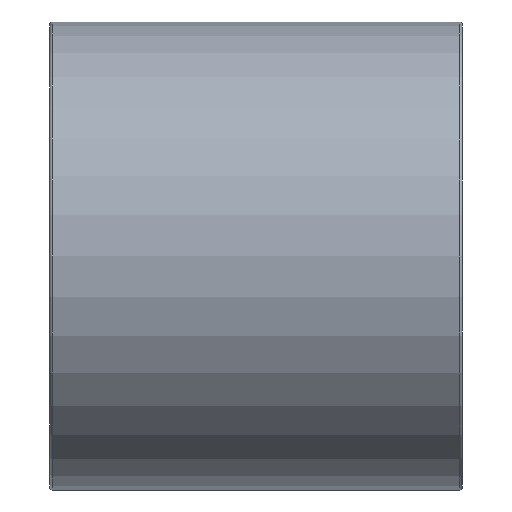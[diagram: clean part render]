
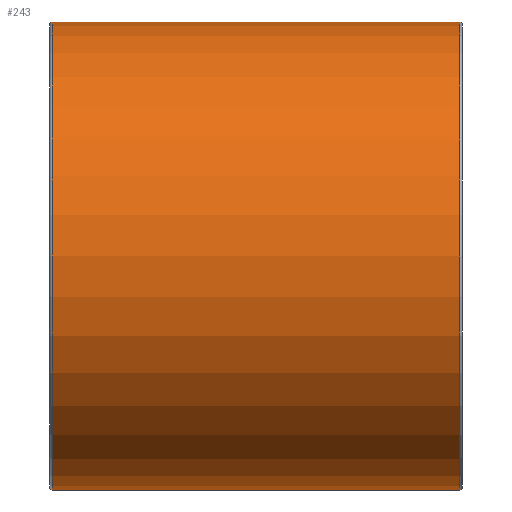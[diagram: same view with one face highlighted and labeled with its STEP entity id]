
A CAD part, front view. The second image highlights one B-rep face of the part: STEP entity #243.
In plain terms, the highlighted cylindrical face has radius 8.5 mm (diameter 17 mm), a full revolution.
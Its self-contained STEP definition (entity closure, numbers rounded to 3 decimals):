
#100=CYLINDRICAL_SURFACE('',#264,8.5);
#106=FACE_BOUND('',#138,.T.);
#120=FACE_OUTER_BOUND('',#137,.T.);
#137=EDGE_LOOP('',(#212));
#138=EDGE_LOOP('',(#213));
#165=CIRCLE('',#262,8.5);
#167=CIRCLE('',#265,8.5);
#180=VERTEX_POINT('',#418);
#182=VERTEX_POINT('',#423);
#195=EDGE_CURVE('',#180,#180,#165,.T.);
#197=EDGE_CURVE('',#182,#182,#167,.T.);
#212=ORIENTED_EDGE('',*,*,#197,.F.);
#213=ORIENTED_EDGE('',*,*,#195,.F.);
#243=ADVANCED_FACE('',(#120,#106),#100,.T.);
#262=AXIS2_PLACEMENT_3D('',#419,#316,#317);
#264=AXIS2_PLACEMENT_3D('',#422,#320,#321);
#265=AXIS2_PLACEMENT_3D('',#424,#322,#323);
#316=DIRECTION('center_axis',(1.,0.,0.));
#317=DIRECTION('ref_axis',(0.,-1.,0.));
#320=DIRECTION('center_axis',(1.,0.,0.));
#321=DIRECTION('ref_axis',(0.,1.,0.));
#322=DIRECTION('center_axis',(-1.,0.,0.));
#323=DIRECTION('ref_axis',(0.,-1.,0.));
#418=CARTESIAN_POINT('',(7.4,8.5,0.));
#419=CARTESIAN_POINT('Origin',(7.4,0.,0.));
#422=CARTESIAN_POINT('Origin',(0.,0.,
0.));
#423=CARTESIAN_POINT('',(-7.4,8.5,0.));
#424=CARTESIAN_POINT('Origin',(-7.4,0.,0.));
